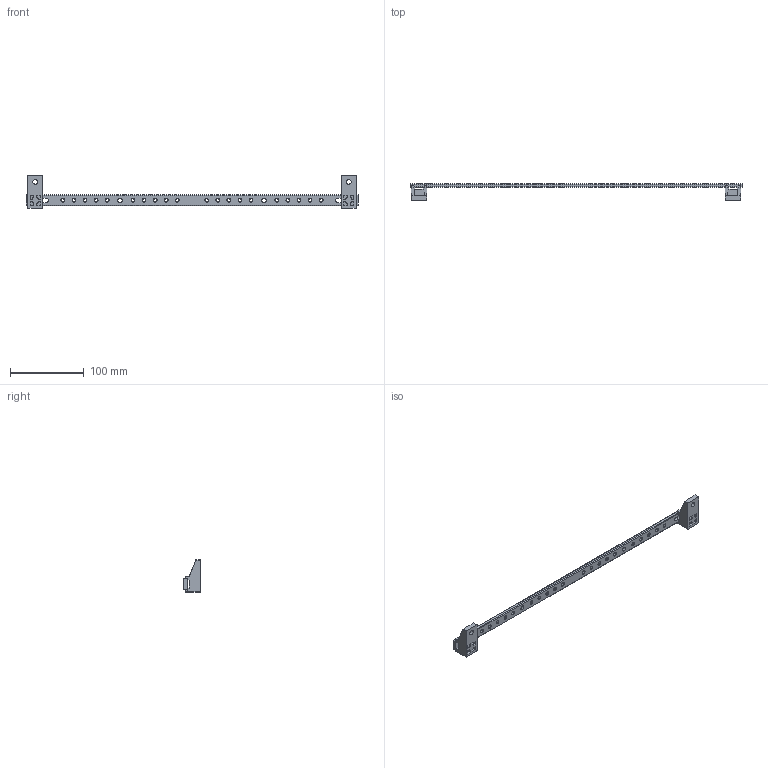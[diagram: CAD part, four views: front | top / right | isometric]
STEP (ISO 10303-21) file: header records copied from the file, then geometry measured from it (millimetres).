
FILE_DESCRIPTION (( 'STEP AP203' ), '1' );
FILE_NAME ('BI 1 ÑÁ äëÿ MPS.STEP', '2022-03-31T08:37:12', ( '' ), ( '' ), 'SwSTEP 2.0', 'SolidWorks 2018', '' );
FILE_SCHEMA (( 'CONFIG_CONTROL_DESIGN' ));
Length unit declared in the file: millimetre
Products named in the file (3): BI 1 Îäíîïîëþñíûé èçîëÿòîð_BI 1 Ž¤­®¯®«îá­ë© ¨§®«ïâ®à; BI 1 ﾑﾁ 蓁 MPS; Øèíà çàçåìëåíèÿ BI 1 5õ15õ450_˜¨­  § §¥¬«¥­¨ï BI 1 5å15å450
Assembly tree (3 placements, depth 2):
  BI 1 ﾑﾁ 蓁 MPS
    BI 1 Îäíîïîëþñíûé èçîëÿòîð_BI 1 Ž¤­®¯®«îá­ë© ¨§®«ïâ®à  x2
    Øèíà çàçåìëåíèÿ BI 1 5õ15õ450_˜¨­  § §¥¬«¥­¨ï BI 1 5å15å450
Bounding box: 450 x 22.5 x 43.5 mm (x, y, z)
Volume: 48999.5 mm3; surface area: 28440.9 mm2
Topology: 3 solids, 3 shells, 504 faces, 1302 edges, 840 vertices
Faces by surface type: plane 288, cone 88, cylinder 80, bspline 48
Entity records: 10328 total; most frequent: CARTESIAN_POINT 2056, ORIENTED_EDGE 1654, DIRECTION 1601, EDGE_CURVE 827, VECTOR 547, LINE 547, AXIS2_PLACEMENT_3D 527, VERTEX_POINT 524
